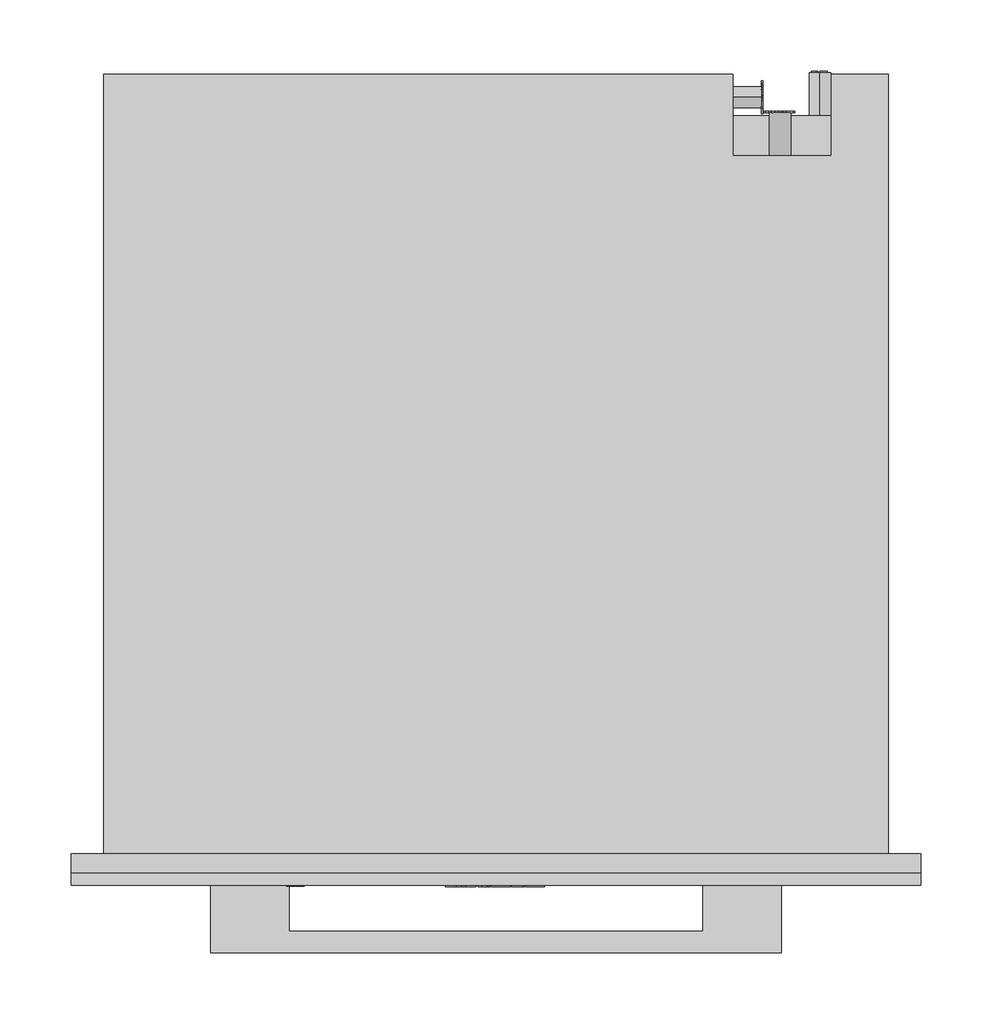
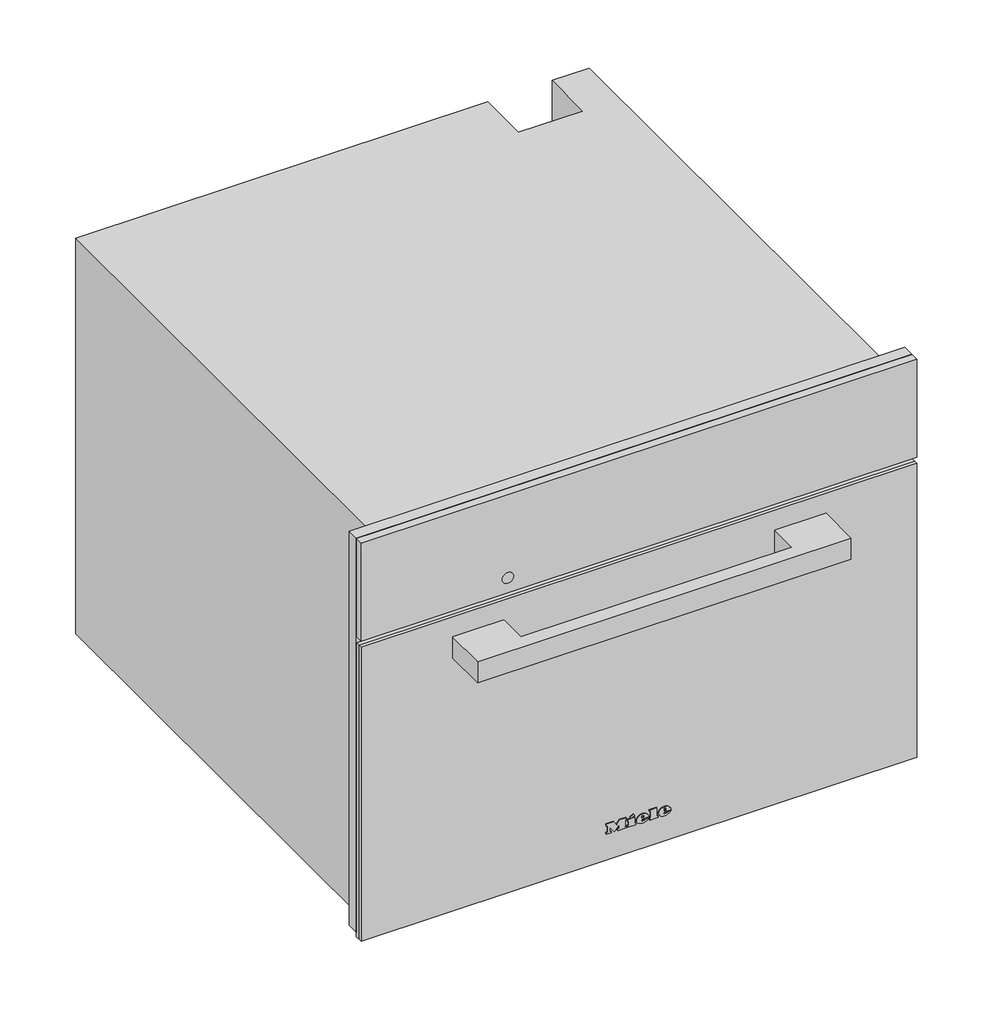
# Not in any storey: 1 proxy.
"""IFC4 building model written with IfcOpenShell, lengths in millimetres."""

import ifcopenshell
import ifcopenshell.guid

model = None  # the IFC model being written
_history = None  # IfcOwnerHistory: only IFC2X3 demands one
_inside = {}  # id of a spatial element -> (the spatial element, [elements in it])
_under = {}  # id of a project, library or spatial element -> (it, [spatial elements below it])
_declared = {}  # id of a project -> (the project, [libraries it declares])
_typed = {}  # id of a type object -> (the type object, [elements of that type])
_made_of = {}  # id of a material, layer set ... -> (it, [elements and type objects made of it])


def new_model(schema):
    """Start an empty IFC model of exactly this schema.

    Asked for "IFC4X3", IfcOpenShell would pick the latest addendum, in which some entities
    have other attributes; the version numbers below select the first issue.
    IFC2X3 requires an IfcOwnerHistory on every rooted entity: one is made here for all.
    """
    global model, _history
    if schema == "IFC4X3":
        model = ifcopenshell.file(schema_version=(4, 3, 0, 0))
    else:
        model = ifcopenshell.file(schema=schema)
    _inside.clear()
    _under.clear()
    _declared.clear()
    _typed.clear()
    _made_of.clear()
    _history = None
    if model.schema == "IFC2X3":
        org = make("IfcOrganization", Name="unknown")
        user = make(
            "IfcPersonAndOrganization",
            ThePerson=make("IfcPerson", FamilyName="unknown"),
            TheOrganization=org,
        )
        app = make(
            "IfcApplication",
            ApplicationDeveloper=org,
            Version="unknown",
            ApplicationFullName="unknown",
            ApplicationIdentifier="unknown",
        )
        _history = make(
            "IfcOwnerHistory",
            OwningUser=user,
            OwningApplication=app,
            ChangeAction="ADDED",
            CreationDate=0,
        )
    return model


def make(cls, **values):
    """One entity of the class cls with the attributes given. An attribute that is None is left unset."""
    return model.create_entity(
        cls, **{name: value for name, value in values.items() if value is not None}
    )


def rooted(cls, **values):
    """An entity with a GlobalId (a new one), such as an element, a storey or a relation."""
    return make(cls, GlobalId=ifcopenshell.guid.new(), OwnerHistory=_history, **values)


def si_unit(unit_type, name, prefix=None):
    """IfcSIUnit, for example si_unit("LENGTHUNIT", "METRE", prefix="MILLI")."""
    return make("IfcSIUnit", UnitType=unit_type, Prefix=prefix, Name=name)


def assignment(units):
    """IfcUnitAssignment: the units of a project."""
    return None if units is None else make("IfcUnitAssignment", Units=units)


def point(xyz):
    """IfcCartesianPoint."""
    return None if xyz is None else make("IfcCartesianPoint", Coordinates=xyz)


def direction(xyz):
    """IfcDirection."""
    return None if xyz is None else make("IfcDirection", DirectionRatios=xyz)


def frame(location, z_axis=None, x_axis=None):
    """IfcAxis2Placement3D, a coordinate frame: its origin and axes. An axis left out is left unset."""
    return make(
        "IfcAxis2Placement3D",
        Location=point(location),
        Axis=direction(z_axis),
        RefDirection=direction(x_axis),
    )


def frame_2d(location, x_axis=None):
    """IfcAxis2Placement2D, a coordinate frame in the plane: its origin and x axis."""
    return make(
        "IfcAxis2Placement2D", Location=point(location), RefDirection=direction(x_axis)
    )


def origin():
    """The frame at (0, 0, 0) with its axes left unset."""
    return frame((0.0, 0.0, 0.0))


def place(relative_to, where):
    """IfcLocalPlacement: puts the frame where relative to a parent placement (None: the world)."""
    return make(
        "IfcLocalPlacement", PlacementRelTo=relative_to, RelativePlacement=where
    )


def context(
    kind, dimensions, precision=None, world=None, true_north=None, identifier=None
):
    """IfcGeometricRepresentationContext, for example the 3D "Model" context."""
    return make(
        "IfcGeometricRepresentationContext",
        ContextIdentifier=identifier,
        ContextType=kind,
        CoordinateSpaceDimension=dimensions,
        Precision=precision,
        WorldCoordinateSystem=world,
        TrueNorth=true_north,
    )


def project(units=None, contexts=None):
    """IfcProject with its units and contexts."""
    return rooted(
        "IfcProject",
        Name="project",
        RepresentationContexts=contexts,
        UnitsInContext=assignment(units),
    )


def spatial(cls, under=None, at=None, **own):
    """A site, building, storey or space (cls), placed at a placement, below another one or the project."""
    s = rooted(cls, ObjectPlacement=at, **own)
    if under is not None:
        _under.setdefault(under.id(), (under, []))[1].append(s)
    return s


def polyline(points):
    """IfcPolyline through the points."""
    return make("IfcPolyline", Points=[point(p) for p in points])


def circle_curve(where, radius):
    """IfcCircle in the frame where."""
    return make("IfcCircle", Position=where, Radius=radius)


def ellipse_curve(where, semi_axis1, semi_axis2):
    """IfcEllipse in the frame where."""
    return make(
        "IfcEllipse", Position=where, SemiAxis1=semi_axis1, SemiAxis2=semi_axis2
    )


def trimmed(basis, trim1, trim2, sense, master):
    """IfcTrimmedCurve: the piece of a basis curve between two trims."""
    return make(
        "IfcTrimmedCurve",
        BasisCurve=basis,
        Trim1=trim1,
        Trim2=trim2,
        SenseAgreement=sense,
        MasterRepresentation=master,
    )


def segment(curve, same_sense, transition):
    """IfcCompositeCurveSegment."""
    return make(
        "IfcCompositeCurveSegment",
        Transition=transition,
        SameSense=same_sense,
        ParentCurve=curve,
    )


def composite_curve(segments, self_intersect=None):
    """IfcCompositeCurve: segments joined end to end."""
    return make("IfcCompositeCurve", Segments=segments, SelfIntersect=self_intersect)


def outline(outer, holes=None, kind="AREA"):
    """IfcArbitraryClosedProfileDef: a profile drawn as a closed curve; with holes, ...WithVoids."""
    if holes is None:
        return make("IfcArbitraryClosedProfileDef", ProfileType=kind, OuterCurve=outer)
    return make(
        "IfcArbitraryProfileDefWithVoids",
        ProfileType=kind,
        OuterCurve=outer,
        InnerCurves=holes,
    )


def extrude(swept, where, along, depth):
    """IfcExtrudedAreaSolid: the profile swept, set in the frame where, extruded along a direction by depth."""
    return make(
        "IfcExtrudedAreaSolid",
        SweptArea=swept,
        Position=where,
        ExtrudedDirection=direction(along),
        Depth=depth,
    )


def faces_of(points, faces, orient=None, outer=None):
    """IfcFace entities. A face is a list of loops; a loop is a list of indices into points, from 0.

    orient and outer hold one flag for each loop. By default every Orientation is true, the
    first loop of a face is its IfcFaceOuterBound and the others are IfcFaceBound.
    """
    made = []
    for i, loops in enumerate(faces):
        bounds = []
        for j, loop in enumerate(loops):
            is_outer = j == 0 if outer is None else outer[i][j]
            bounds.append(
                make(
                    "IfcFaceOuterBound" if is_outer else "IfcFaceBound",
                    Bound=make("IfcPolyLoop", Polygon=[points[k] for k in loop]),
                    Orientation=True if orient is None else orient[i][j],
                )
            )
        made.append(make("IfcFace", Bounds=bounds))
    return made


def faceted_brep(points, faces, orient=None, outer=None, voids=None):
    """IfcFacetedBrep: a solid bounded by flat faces; with voids (closed shells), ...WithVoids."""
    shared = [point(p) for p in points]
    hull = make("IfcClosedShell", CfsFaces=faces_of(shared, faces, orient, outer))
    if voids is None:
        return make("IfcFacetedBrep", Outer=hull)
    return make(
        "IfcFacetedBrepWithVoids",
        Outer=hull,
        Voids=[
            make(cls, CfsFaces=faces_of(shared, fs, o, b)) for cls, fs, o, b in voids
        ],
    )


def shape(context_of_items, identifier, shape_type, items):
    """IfcShapeRepresentation: the items that make up one representation, for example the "Body"."""
    return make(
        "IfcShapeRepresentation",
        ContextOfItems=context_of_items,
        RepresentationIdentifier=identifier,
        RepresentationType=shape_type,
        Items=items,
    )


def source(mapping_origin, context_of_items, identifier, shape_type, items):
    """IfcRepresentationMap: a shape defined once, which mapped items show again and again."""
    return make(
        "IfcRepresentationMap",
        MappingOrigin=mapping_origin,
        MappedRepresentation=shape(context_of_items, identifier, shape_type, items),
    )


def transform(
    local_origin,
    x_axis=None,
    y_axis=None,
    z_axis=None,
    scale=None,
    scale2=None,
    scale3=None,
    uniform=True,
):
    """IfcCartesianTransformationOperator3D, or its non-uniform kind. x_axis, y_axis, z_axis: its Axis1, 2, 3."""
    if uniform:
        return make(
            "IfcCartesianTransformationOperator3D",
            Axis1=direction(x_axis),
            Axis2=direction(y_axis),
            LocalOrigin=point(local_origin),
            Scale=scale,
            Axis3=direction(z_axis),
        )
    return make(
        "IfcCartesianTransformationOperator3DnonUniform",
        Axis1=direction(x_axis),
        Axis2=direction(y_axis),
        LocalOrigin=point(local_origin),
        Scale=scale,
        Axis3=direction(z_axis),
        Scale2=scale2,
        Scale3=scale3,
    )


def mapped(mapping_source, mapping_target):
    """IfcMappedItem: shows the shape of a source again, moved by a transform."""
    return make(
        "IfcMappedItem", MappingSource=mapping_source, MappingTarget=mapping_target
    )


def made_of(thing, what):
    """Note that an element or type object is made of a material, layer set ...; save() writes the relation."""
    if what is not None:
        _made_of.setdefault(what.id(), (what, []))[1].append(thing)
    return thing


def element(
    cls,
    number,
    at=None,
    inside=None,
    cuts=None,
    type_object=None,
    material=None,
    context=None,
    identifier="Body",
    shape_type=None,
    held_by="IfcProductDefinitionShape",
    body=None,
    shapes=None,
    **own,
):
    """One element of the class cls, such as IfcWall. Its Tag is "e" and its number.

    at: its placement. inside: the storey or other place that contains it. cuts: it is an
    opening in that element (IfcRelVoidsElement). A single representation is given by context,
    identifier, shape_type and body (its items); several are given by shapes. held_by: the class
    of the entity that holds the representations. save() writes the other relations.
    """
    e = rooted(cls, Tag="e%d" % number, ObjectPlacement=at, **own)
    if body is not None:
        shapes = [shape(context, identifier, shape_type, body)]
    if shapes is not None:
        e.Representation = make(held_by, Representations=shapes)
    if inside is not None:
        _inside.setdefault(inside.id(), (inside, []))[1].append(e)
    if cuts is not None:
        rooted(
            "IfcRelVoidsElement", RelatingBuildingElement=cuts, RelatedOpeningElement=e
        )
    if type_object is not None:
        _typed.setdefault(type_object.id(), (type_object, []))[1].append(e)
    return made_of(e, material)


def aggregate(whole, parts):
    """IfcRelAggregates: a whole, such as a stair, and the parts it consists of."""
    return rooted("IfcRelAggregates", RelatingObject=whole, RelatedObjects=parts)


def save(model, path):
    """Write the relations noted so far, then the file.

    IfcRelAggregates (storeys below a building ...), IfcRelContainedInSpatialStructure (elements
    in a storey), IfcRelDefinesByType, IfcRelAssociatesMaterial and IfcRelDeclares: one each for
    every whole, place, type object, material and project.
    """
    for whole, parts in _under.values():
        aggregate(whole, parts)
    for where, things in _inside.values():
        rooted(
            "IfcRelContainedInSpatialStructure",
            RelatedElements=things,
            RelatingStructure=where,
        )
    for kind, things in _typed.values():
        rooted("IfcRelDefinesByType", RelatedObjects=things, RelatingType=kind)
    for what, things in _made_of.values():
        rooted("IfcRelAssociatesMaterial", RelatedObjects=things, RelatingMaterial=what)
    for by, libraries in _declared.values():
        rooted("IfcRelDeclares", RelatingContext=by, RelatedDefinitions=libraries)
    model.write(path)


def plane_surface(at):
    """IfcPlane: the flat surface through the origin of the frame at, square to its z axis."""
    return make("IfcPlane", Position=at)


def cylinder_surface(at, radius):
    """IfcCylindricalSurface: all points at the distance radius from the z axis of the frame at."""
    return make("IfcCylindricalSurface", Position=at, Radius=radius)


def revolved_surface(curve, axis_point, axis_direction):
    """IfcSurfaceOfRevolution: the curve turned about the line through axis_point along axis_direction."""
    return make(
        "IfcSurfaceOfRevolution",
        SweptCurve=make("IfcArbitraryOpenProfileDef", ProfileType="CURVE", Curve=curve),
        AxisPosition=make("IfcAxis1Placement", Location=point(axis_point), Axis=direction(axis_direction)),
    )


def extruded_surface(curve, direction_of_extrusion, depth):
    """IfcSurfaceOfLinearExtrusion: the curve pushed along a direction by depth."""
    return make(
        "IfcSurfaceOfLinearExtrusion",
        SweptCurve=make("IfcArbitraryOpenProfileDef", ProfileType="CURVE", Curve=curve),
        ExtrudedDirection=direction(direction_of_extrusion),
        Depth=depth,
    )


def advanced_brep(points, edges, surfaces, faces):
    """IfcAdvancedBrep: a solid bounded by faces that lie on surfaces and meet in shared edges.

    An edge is (start, end): straight between two places in points (the first is 0);
    or (start, end, curve); or (start, end, curve, False) where it runs against its curve.
    A face is (place in surfaces, loops), or (place, loops, False) where it looks against
    its surface's normal. A loop lists edges by number (the first is 1), with a minus sign
    where the edge is run from its end to its start. The first loop is the outer one.
    """
    corners = [point(p) for p in points]
    vertices = [make("IfcVertexPoint", VertexGeometry=c) for c in corners]
    made = []
    for start, end, *more in edges:
        made.append(
            make(
                "IfcEdgeCurve",
                EdgeStart=vertices[start],
                EdgeEnd=vertices[end],
                EdgeGeometry=more[0] if more else make("IfcPolyline", Points=[corners[start], corners[end]]),
                SameSense=more[1] if len(more) > 1 else True,
            )
        )
    hull = []
    for where, loops, *sense in faces:
        bounds = []
        for j, loop in enumerate(loops):
            ring = [make("IfcOrientedEdge", EdgeElement=made[abs(k) - 1], Orientation=k > 0) for k in loop]
            bounds.append(
                make(
                    "IfcFaceOuterBound" if j == 0 else "IfcFaceBound",
                    Bound=make("IfcEdgeLoop", EdgeList=ring),
                    Orientation=True,
                )
            )
        hull.append(make("IfcAdvancedFace", Bounds=bounds, FaceSurface=surfaces[where], SameSense=sense[0] if sense else True))
    return make("IfcAdvancedBrep", Outer=make("IfcClosedShell", CfsFaces=hull))


def specialty_equipment_17d98265(model_context):
    return source(origin(), model_context, "Body", "SolidModel", [
        extrude(outline(polyline([(455.0, 297.5), (455.0, -297.5), (9.0, -297.5), (9.0, 297.5), (455.0, 297.5)]), holes=[polyline([(344.0, -272.5), (344.0, 272.5), (27.0, 272.5), (27.0, -272.5), (344.0, -272.5)])]), frame((0.0, -13.0, 0.0), z_axis=(0.0, 1.0, 0.0), x_axis=(0.0, 0.0, 1.0)), (0.0, 0.0, 1.0), 13.0),
        extrude(outline(polyline([(383.0, 196.9217896), (383.0, 198.4267862), (393.0435673, 201.1942402), (393.0435673, 199.9014806), (384.4295103, 197.7797951), (393.0470645, 195.3087512), (393.0470645, 193.4373937), (384.4121052, 190.9191482), (393.0472266, 188.8443938), (393.0472266, 187.5376524), (383.0, 190.2769667), (383.0, 191.6257455), (391.8347238, 194.3884733), (383.0, 196.9217896)])), frame((0.0, 519.0, 0.0), z_axis=(0.0, 1.0, 0.0), x_axis=(0.0, 0.0, 1.0)), (0.0, 0.0, 1.0), 1.0),
        extrude(outline(polyline([(393.0468463, 209.521488), (393.0468463, 208.2566067), (388.129594, 208.2566067), (393.0474898, 203.1074328), (393.0474898, 201.3597489), (388.9313111, 205.6695027), (383.0, 201.1858157), (383.0, 202.7358731), (388.0700777, 206.5685235), (386.4282746, 208.2823622), (383.0, 208.2823622), (383.0, 209.521488), (393.0468463, 209.521488)])), frame((0.0, 519.0, 0.0), z_axis=(0.0, 1.0, 0.0), x_axis=(0.0, 0.0, 1.0)), (0.0, 0.0, 1.0), 1.0),
        extrude(outline(polyline([(518.3136153, 20.0), (522.323529, 30.045631), (523.3928394, 30.045631), (527.4027531, 20.0), (526.0759254, 20.0), (524.925681, 23.1392597), (520.7882348, 23.1392597), (519.640443, 20.0), (518.3136153, 20.0)]), holes=[polyline([(521.2493136, 24.3949636), (524.4670548, 24.3949636), (523.5620651, 26.864678), (522.8581842, 28.7899271), (522.2327848, 27.0805021), (521.2493136, 24.3949636)])]), frame((186.0, 0.0, 0.0), z_axis=(1.0, 0.0, 0.0), x_axis=(0.0, 1.0, 0.0)), (0.0, 0.0, 1.0), 1.0),
        extrude(outline(polyline([(530.5420128, 20.0), (527.8025182, 30.045631), (529.0974628, 30.045631), (530.6867131, 23.4433755), (531.1772224, 21.4053092), (531.7020674, 23.207931), (533.6935352, 30.045631), (535.5599232, 30.045631), (537.0069257, 25.0890343), (538.0835937, 21.4053092), (538.5593878, 23.3845144), (540.1633533, 30.045631), (541.4582979, 30.045631), (538.7163507, 20.0), (537.3748077, 20.0), (534.9664069, 27.7500474), (534.630408, 28.8316204), (534.2527159, 27.5293182), (532.0576866, 20.0), (530.5420128, 20.0)])), frame((186.0, 0.0, 0.0), z_axis=(1.0, 0.0, 0.0), x_axis=(0.0, 1.0, 0.0)), (0.0, 0.0, 1.0), 1.0),
        advanced_brep(
        [(227.0, 547.0, 255.5), (227.0, 547.0, 240.5), (221.4098301, 547.0, 243.0), (225.5, 547.0, 243.0), (225.5, 547.0, 253.0), (224.4955303, 547.0, 253.0), (224.4955303, 547.0, 244.0), (221.0315043, 547.0, 244.0), (221.0315043, 547.0, 243.4582978), (232.0, 547.0, 243.0), (232.0, 547.0, 253.0), (227.0, 547.0, 253.0), (227.0, 547.0, 252.0), (231.0, 547.0, 252.0), (231.0, 547.0, 248.5), (228.0, 547.0, 248.5), (228.0, 547.0, 247.5), (231.0, 547.0, 247.5), (231.0, 547.0, 244.0), (227.0, 547.0, 244.0), (227.0, 547.0, 243.0), (227.0, 517.0, 240.5), (227.0, 517.0, 255.5), (232.0, 548.0, 253.0), (232.0, 548.0, 243.0), (227.0, 548.0, 243.0), (227.0, 548.0, 244.0), (231.0, 548.0, 244.0), (231.0, 548.0, 247.5), (228.0, 548.0, 247.5), (228.0, 548.0, 248.5), (231.0, 548.0, 248.5), (231.0, 548.0, 252.0), (227.0, 548.0, 252.0), (227.0, 548.0, 253.0), (225.5, 548.0, 243.0), (221.0315043, 548.0, 243.0), (221.0315043, 548.0, 244.0), (224.4955303, 548.0, 244.0), (224.4955303, 548.0, 253.0), (225.5, 548.0, 253.0), (221.0315043, 547.0, 243.0)],
        [
            (0, 1, circle_curve(frame((227.0, 547.0, 248.0), z_axis=(0.0, 1.0, 0.0), x_axis=(0.0, 0.0, 1.0)), 7.5)),
            (1, 2, circle_curve(frame((227.0, 547.0, 248.0), z_axis=(0.0, 1.0, 0.0), x_axis=(0.0, 0.0, 1.0)), 7.5)),
            (2, 3),
            (3, 4),
            (4, 5),
            (5, 6),
            (6, 7),
            (7, 8),
            (8, 0, circle_curve(frame((227.0, 547.0, 248.0), z_axis=(0.0, 1.0, 0.0), x_axis=(0.0, 0.0, 1.0)), 7.5)),
            (9, 10),
            (10, 11),
            (11, 12),
            (12, 13),
            (13, 14),
            (14, 15),
            (15, 16),
            (16, 17),
            (17, 18),
            (18, 19),
            (19, 20),
            (20, 9),
            (21, 22, circle_curve(frame((227.0, 517.0, 248.0), z_axis=(0.0, -1.0, 0.0), x_axis=(0.0, 0.0, 1.0)), 7.5)),
            (22, 21, circle_curve(frame((227.0, 517.0, 248.0), z_axis=(0.0, -1.0, 0.0), x_axis=(0.0, 0.0, 1.0)), 7.5)),
            (0, 22),
            (21, 1),
            (8, 2, circle_curve(frame((227.0, 547.0, 248.0), z_axis=(0.0, -1.0, 0.0), x_axis=(0.0, 0.0, 1.0)), 7.5)),
            (23, 24),
            (24, 25),
            (25, 26),
            (26, 27),
            (27, 28),
            (28, 29),
            (29, 30),
            (30, 31),
            (31, 32),
            (32, 33),
            (33, 34),
            (34, 23),
            (35, 36),
            (36, 37),
            (37, 38),
            (38, 39),
            (39, 40),
            (40, 35),
            (8, 41),
            (41, 2),
            (23, 10),
            (9, 24),
            (20, 25),
            (19, 26),
            (18, 27),
            (17, 28),
            (16, 29),
            (15, 30),
            (14, 31),
            (13, 32),
            (12, 33),
            (11, 34),
            (35, 3),
            (41, 36),
            (7, 37),
            (6, 38),
            (5, 39),
            (4, 40),
        ],
        [
            plane_surface(frame((227.0, 547.0, 255.5), z_axis=(0.0, 1.0, 0.0), x_axis=(1.0, 0.0, 0.0))),
            plane_surface(frame((227.0, 517.0, 255.5), z_axis=(0.0, -1.0, 0.0), x_axis=(-1.0, 0.0, 0.0))),
            cylinder_surface(frame((227.0, 547.0, 248.0), z_axis=(0.0, -1.0, 0.0), x_axis=(0.0, 0.0, 1.0)), 7.5),
            plane_surface(frame((232.0, 548.0, 253.0), z_axis=(0.0, 1.0, 0.0), x_axis=(0.0, 0.0, -1.0))),
            plane_surface(frame((232.0, 547.0, 253.0), z_axis=(0.0, -1.0, 0.0), x_axis=(0.0, 0.0, 1.0))),
            plane_surface(frame((232.0, 548.0, 253.0), z_axis=(1.0, 0.0, 0.0), x_axis=(0.0, -1.0, 0.0))),
            plane_surface(frame((232.0, 548.0, 243.0), z_axis=(0.0, 0.0, -1.0), x_axis=(0.0, -1.0, 0.0))),
            plane_surface(frame((227.0, 548.0, 243.0), z_axis=(-1.0, 0.0, 0.0), x_axis=(0.0, -1.0, 0.0))),
            plane_surface(frame((227.0, 548.0, 244.0), z_axis=(0.0, 0.0, 1.0), x_axis=(0.0, -1.0, 0.0))),
            plane_surface(frame((231.0, 548.0, 244.0), z_axis=(-1.0, 0.0, 0.0), x_axis=(0.0, -1.0, 0.0))),
            plane_surface(frame((231.0, 548.0, 247.5), z_axis=(0.0, 0.0, -1.0), x_axis=(0.0, -1.0, 0.0))),
            plane_surface(frame((228.0, 548.0, 247.5), z_axis=(-1.0, 0.0, 0.0), x_axis=(0.0, -1.0, 0.0))),
            plane_surface(frame((228.0, 548.0, 248.5), z_axis=(0.0, 0.0, 1.0), x_axis=(0.0, -1.0, 0.0))),
            plane_surface(frame((231.0, 548.0, 248.5), z_axis=(-1.0, 0.0, 0.0), x_axis=(0.0, -1.0, 0.0))),
            plane_surface(frame((231.0, 548.0, 252.0), z_axis=(0.0, 0.0, -1.0), x_axis=(0.0, -1.0, 0.0))),
            plane_surface(frame((227.0, 548.0, 252.0), z_axis=(-1.0, 0.0, 0.0), x_axis=(0.0, -1.0, 0.0))),
            plane_surface(frame((227.0, 548.0, 253.0), z_axis=(0.0, 0.0, 1.0), x_axis=(0.0, -1.0, 0.0))),
            plane_surface(frame((225.5, 548.0, 243.0), z_axis=(0.0, 0.0, -1.0), x_axis=(0.0, -1.0, 0.0))),
            plane_surface(frame((221.0315043, 548.0, 243.0), z_axis=(-1.0, 0.0, 0.0), x_axis=(0.0, -1.0, 0.0))),
            plane_surface(frame((221.0315043, 548.0, 244.0), z_axis=(0.0, 0.0, 1.0), x_axis=(0.0, -1.0, 0.0))),
            plane_surface(frame((224.4955303, 548.0, 244.0), z_axis=(-1.0, 0.0, 0.0), x_axis=(0.0, -1.0, 0.0))),
            plane_surface(frame((224.4955303, 548.0, 253.0), z_axis=(0.0, 0.0, 1.0), x_axis=(0.0, -1.0, 0.0))),
            plane_surface(frame((225.5, 548.0, 253.0), z_axis=(1.0, 0.0, 0.0), x_axis=(0.0, -1.0, 0.0))),
        ],
        [
            (0, [[1, 2, 3, 4, 5, 6, 7, 8, 9], [10, 11, 12, 13, 14, 15, 16, 17, 18, 19, 20, 21]]),
            (1, [[22, 23]]),
            (2, [[-1, 24, -22, 25]]),
            (2, [[-23, -24, -9, 26, -2, -25]]),
            (3, [[27, 28, 29, 30, 31, 32, 33, 34, 35, 36, 37, 38]]),
            (3, [[39, 40, 41, 42, 43, 44]]),
            (4, [[45, 46, -26]]),
            (5, [[-27, 47, -10, 48]]),
            (6, [[-28, -48, -21, 49]]),
            (7, [[-29, -49, -20, 50]]),
            (8, [[-30, -50, -19, 51]]),
            (9, [[-31, -51, -18, 52]]),
            (10, [[-32, -52, -17, 53]]),
            (11, [[-33, -53, -16, 54]]),
            (12, [[-34, -54, -15, 55]]),
            (13, [[-35, -55, -14, 56]]),
            (14, [[-36, -56, -13, 57]]),
            (15, [[-37, -57, -12, 58]]),
            (16, [[-38, -58, -11, -47]]),
            (17, [[-39, 59, -3, -46, 60]]),
            (18, [[-40, -60, -45, -8, 61]]),
            (19, [[-41, -61, -7, 62]]),
            (20, [[-42, -62, -6, 63]]),
            (21, [[-43, -63, -5, 64]]),
            (22, [[-44, -64, -4, -59]]),
        ],
    ),
        extrude(outline(composite_curve([segment(trimmed(circle_curve(frame_2d((388.0, 199.0)), 7.5), [point((388.0, 206.5))], [point((388.0, 191.5))], False, "CARTESIAN"), True, "CONTINUOUS"), segment(trimmed(circle_curve(frame_2d((388.0, 199.0)), 7.5), [point((388.0, 191.5))], [point((388.0, 206.5))], False, "CARTESIAN"), True, "CONTINUOUS")], self_intersect=False)), frame((0.0, 489.0, 0.0), z_axis=(0.0, 1.0, 0.0), x_axis=(0.0, 0.0, 1.0)), (0.0, 0.0, 1.0), 30.0),
        extrude(outline(composite_curve([segment(trimmed(circle_curve(frame_2d((530.0, 25.0)), 7.5), [point((530.0, 17.5))], [point((530.0, 32.5))], False, "CARTESIAN"), True, "CONTINUOUS"), segment(trimmed(circle_curve(frame_2d((530.0, 25.0)), 7.5), [point((530.0, 32.5))], [point((530.0, 17.5))], False, "CARTESIAN"), True, "CONTINUOUS")], self_intersect=False)), frame((166.0, 0.0, 0.0), z_axis=(1.0, 0.0, 0.0), x_axis=(0.0, 1.0, 0.0)), (0.0, 0.0, 1.0), 20.0),
        faceted_brep([(-275.0, 546.0, 0.0), (-275.0, 546.0, 448.0), (166.0, 546.0, 448.0), (166.0, 546.0, 0.0), (235.0, 546.0, 448.0), (275.0, 546.0, 448.0), (275.0, 546.0, 338.0), (235.0, 546.0, 338.0), (275.0, 0.0, 448.0), (-275.0, 0.0, 448.0), (-275.0, 0.0, 0.0), (275.0, 0.0, 0.0), (-272.5, 0.0, 344.0), (272.5, 0.0, 344.0), (272.5, 0.0, 27.0), (-272.5, 0.0, 27.0), (235.0, 489.0, 448.0), (166.0, 489.0, 448.0), (166.0, 517.0, 0.0), (275.0, 517.0, 0.0), (275.0, 517.0, 338.0), (272.5, 17.0, 344.0), (-272.5, 17.0, 344.0), (-272.5, 17.0, 27.0), (272.5, 17.0, 27.0), (231.0, 17.0, 307.0), (231.0, 17.0, 65.0), (-231.0, 17.0, 65.0), (-231.0, 17.0, 307.0), (231.0, 411.0, 307.0), (-231.0, 411.0, 307.0), (-231.0, 411.0, 65.0), (231.0, 411.0, 65.0), (235.0, 489.0, 337.0), (166.0, 489.0, 337.0), (166.0, 517.0, 337.0), (235.0, 517.0, 337.0), (235.0, 517.0, 338.0)], [[[0, 1, 2, 3]], [[4, 5, 6, 7]], [[8, 9, 10, 11], [12, 13, 14, 15]], [[9, 8, 5, 4, 16, 17, 2, 1]], [[1, 0, 10, 9]], [[11, 10, 0, 3, 18, 19]], [[8, 11, 19, 20, 6, 5]], [[21, 22, 23, 24], [25, 26, 27, 28]], [[22, 21, 13, 12]], [[23, 22, 12, 15]], [[24, 23, 15, 14]], [[21, 24, 14, 13]], [[29, 30, 31, 32]], [[29, 32, 26, 25]], [[32, 31, 27, 26]], [[31, 30, 28, 27]], [[30, 29, 25, 28]], [[16, 33, 34, 17]], [[17, 34, 35, 18, 3, 2]], [[34, 33, 36, 35]], [[33, 16, 4, 7, 37, 36]], [[37, 20, 19, 18, 35, 36]], [[20, 37, 7, 6]]]),
        advanced_brep(
        [(26.2998, -23.0, 36.7018), (26.2998, -23.0, 37.8532), (33.9264, -23.0, 37.8532), (20.6568, -23.0, 37.8532), (23.7918, -23.0, 34.0), (33.7326, -23.0, 36.7018), (30.2898, -23.0, 36.7018), (27.5766, -23.0, 35.425), (26.2998, -23.0, 39.3124), (26.2998, -23.0, 40.555), (28.2492, -23.0, 40.555), (28.2492, -23.0, 39.3124), (26.2998, -22.0, 36.7018), (27.5766, -22.0, 35.425), (30.2898, -22.0, 36.7018), (33.7326, -22.0, 36.7018), (23.7918, -22.0, 34.0), (20.6568, -22.0, 37.8532), (33.9264, -22.0, 37.8532), (26.2998, -22.0, 37.8532), (26.2998, -22.0, 39.3124), (28.2492, -22.0, 39.3124), (28.2492, -22.0, 40.555), (26.2998, -22.0, 40.555)],
        [
            (0, 1),
            (1, 2),
            (2, 3, ellipse_curve(frame((27.2916, -23.0, 37.8532), z_axis=(0.0, -1.0, 0.0), x_axis=(-1.0, 0.0, 0.0)), 6.6348, 5.4834)),
            (3, 4, circle_curve(frame((25.0686622, -23.0, 38.2408), z_axis=(0.0, -1.0, 0.0), x_axis=(0.0, 0.0, -1.0)), 4.4288556)),
            (4, 5, circle_curve(frame((27.1587808, -23.0, 41.2504), z_axis=(0.0, -1.0, 0.0), x_axis=(0.0, 0.0, -1.0)), 7.9940516)),
            (5, 6),
            (6, 7, circle_curve(frame((28.1338588, -23.0, 37.762), z_axis=(0.0, 1.0, 0.0), x_axis=(0.0, 0.0, -1.0)), 2.4025208)),
            (7, 0, circle_curve(frame((27.5766, -23.0, 36.7018), z_axis=(0.0, 1.0, 0.0), x_axis=(0.0, 0.0, -1.0)), 1.2768)),
            (8, 9),
            (9, 10, circle_curve(frame((27.2745, -23.0, 40.555), z_axis=(0.0, 1.0, 0.0), x_axis=(0.0, 0.0, -1.0)), 0.9747)),
            (10, 11),
            (11, 8),
            (12, 13, circle_curve(frame((27.5766, -22.0, 36.7018), z_axis=(0.0, -1.0, 0.0), x_axis=(0.0, 0.0, -1.0)), 1.2768)),
            (13, 14, circle_curve(frame((28.1338588, -22.0, 37.762), z_axis=(0.0, -1.0, 0.0), x_axis=(0.0, 0.0, -1.0)), 2.4025208)),
            (14, 15),
            (15, 16, circle_curve(frame((27.1587808, -22.0, 41.2504), z_axis=(0.0, 1.0, 0.0), x_axis=(0.0, 0.0, -1.0)), 7.9940516)),
            (16, 17, circle_curve(frame((25.0686622, -22.0, 38.2408), z_axis=(0.0, 1.0, 0.0), x_axis=(0.0, 0.0, -1.0)), 4.4288556)),
            (17, 18, ellipse_curve(frame((27.2916, -22.0, 37.8532), z_axis=(0.0, 1.0, 0.0), x_axis=(-1.0, 0.0, 0.0)), 6.6348, 5.4834)),
            (18, 19),
            (19, 12),
            (20, 21),
            (21, 22),
            (22, 23, circle_curve(frame((27.2745, -22.0, 40.555), z_axis=(0.0, -1.0, 0.0), x_axis=(0.0, 0.0, -1.0)), 0.9747)),
            (23, 20),
            (0, 12),
            (19, 1),
            (18, 2),
            (5, 15),
            (14, 6),
            (17, 3),
            (13, 7),
            (16, 4),
            (8, 20),
            (23, 9),
            (22, 10),
            (21, 11),
        ],
        [
            plane_surface(frame((26.2998, -23.0, 37.8532), z_axis=(0.0, -1.0, 0.0), x_axis=(0.0, 0.0, 1.0))),
            plane_surface(frame((26.2998, -22.0, 37.8532), z_axis=(0.0, 1.0, 0.0), x_axis=(0.0, 0.0, -1.0))),
            plane_surface(frame((26.2998, -23.0, 36.7018), z_axis=(1.0, 0.0, 0.0), x_axis=(0.0, 1.0, 0.0))),
            plane_surface(frame((26.2998, -23.0, 37.8532), z_axis=(0.0, 0.0, -1.0), x_axis=(0.0, 1.0, 0.0))),
            plane_surface(frame((33.7326, -23.0, 36.7018), z_axis=(0.0, 0.0, 1.0), x_axis=(0.0, 1.0, 0.0))),
            extruded_surface(trimmed(ellipse_curve(frame((27.2916, -21.0, 37.8532), z_axis=(0.0, -1.0, 0.0), x_axis=(-1.0, 0.0, 0.0)), 6.6348, 5.4834), [point((33.9264, -21.0, 37.8532))], [point((20.6568, -21.0, 37.8532))], True, "CARTESIAN"), (0.0, -1.0, 0.0), 1.0),
            revolved_surface(polyline([(28.1338588, -22.0, 35.3594792), (28.1338588, -23.0, 35.3594792)]), (28.1338588, -22.0, 37.762), (0.0, 1.0, 0.0)),
            revolved_surface(polyline([(27.5766, -22.0, 35.425), (27.5766, -23.0, 35.425)]), (27.5766, -22.0, 36.7018), (0.0, 1.0, 0.0)),
            cylinder_surface(frame((25.0686622, -22.0, 38.2408), z_axis=(0.0, -1.0, 0.0), x_axis=(0.0, 0.0, -1.0)), 4.4288556),
            cylinder_surface(frame((27.1587808, -22.0, 41.2504), z_axis=(0.0, -1.0, 0.0), x_axis=(0.0, 0.0, -1.0)), 7.9940516),
            plane_surface(frame((26.2998, -23.0, 39.3124), z_axis=(1.0, 0.0, 0.0), x_axis=(0.0, 1.0, 0.0))),
            revolved_surface(polyline([(27.2745, -22.0, 39.5803), (27.2745, -23.0, 39.5803)]), (27.2745, -22.0, 40.555), (0.0, 1.0, 0.0)),
            plane_surface(frame((28.2492, -23.0, 40.555), z_axis=(-1.0, 0.0, 0.0), x_axis=(0.0, 1.0, 0.0))),
            plane_surface(frame((28.2492, -23.0, 39.3124), z_axis=(0.0, 0.0, 1.0), x_axis=(0.0, 1.0, 0.0))),
        ],
        [
            (0, [[1, 2, 3, 4, 5, 6, 7, 8], [9, 10, 11, 12]]),
            (1, [[13, 14, 15, 16, 17, 18, 19, 20], [21, 22, 23, 24]]),
            (2, [[-1, 25, -20, 26]]),
            (3, [[-2, -26, -19, 27]]),
            (4, [[-6, 28, -15, 29]]),
            (5, [[-3, -27, -18, 30]]),
            (6, [[-7, -29, -14, 31]]),
            (7, [[-8, -31, -13, -25]]),
            (8, [[-4, -30, -17, 32]]),
            (9, [[-5, -32, -16, -28]]),
            (10, [[-9, 33, -24, 34]]),
            (11, [[-10, -34, -23, 35]]),
            (12, [[-11, -35, -22, 36]]),
            (13, [[-12, -36, -21, -33]]),
        ],
    ),
        advanced_brep(
        [(2.508, -23.0, 36.7018), (2.508, -23.0, 37.8532), (10.1346, -23.0, 37.8532), (-3.135, -23.0, 37.8532), (0.0, -23.0, 34.0), (9.9408, -23.0, 36.7018), (6.498, -23.0, 36.7018), (3.7848, -23.0, 35.425), (2.508, -23.0, 39.3124), (2.508, -23.0, 40.555), (4.4574, -23.0, 40.555), (4.4574, -23.0, 39.3124), (2.508, -22.0, 36.7018), (3.7848, -22.0, 35.425), (6.498, -22.0, 36.7018), (9.9408, -22.0, 36.7018), (0.0, -22.0, 34.0), (-3.135, -22.0, 37.8532), (10.1346, -22.0, 37.8532), (2.508, -22.0, 37.8532), (2.508, -22.0, 39.3124), (4.4574, -22.0, 39.3124), (4.4574, -22.0, 40.555), (2.508, -22.0, 40.555)],
        [
            (0, 1),
            (1, 2),
            (2, 3, ellipse_curve(frame((3.4998, -23.0, 37.8532), z_axis=(0.0, -1.0, 0.0), x_axis=(-1.0, 0.0, 0.0)), 6.6348, 5.4834)),
            (3, 4, circle_curve(frame((1.2768622, -23.0, 38.2408), z_axis=(0.0, -1.0, 0.0), x_axis=(0.0, 0.0, -1.0)), 4.4288556)),
            (4, 5, circle_curve(frame((3.3669808, -23.0, 41.2504), z_axis=(0.0, -1.0, 0.0), x_axis=(0.0, 0.0, -1.0)), 7.9940516)),
            (5, 6),
            (6, 7, circle_curve(frame((4.3420588, -23.0, 37.762), z_axis=(0.0, 1.0, 0.0), x_axis=(0.0, 0.0, -1.0)), 2.4025208)),
            (7, 0, circle_curve(frame((3.7848, -23.0, 36.7018), z_axis=(0.0, 1.0, 0.0), x_axis=(0.0, 0.0, -1.0)), 1.2768)),
            (8, 9),
            (9, 10, circle_curve(frame((3.4827, -23.0, 40.555), z_axis=(0.0, 1.0, 0.0), x_axis=(0.0, 0.0, -1.0)), 0.9747)),
            (10, 11),
            (11, 8),
            (12, 13, circle_curve(frame((3.7848, -22.0, 36.7018), z_axis=(0.0, -1.0, 0.0), x_axis=(0.0, 0.0, -1.0)), 1.2768)),
            (13, 14, circle_curve(frame((4.3420588, -22.0, 37.762), z_axis=(0.0, -1.0, 0.0), x_axis=(0.0, 0.0, -1.0)), 2.4025208)),
            (14, 15),
            (15, 16, circle_curve(frame((3.3669808, -22.0, 41.2504), z_axis=(0.0, 1.0, 0.0), x_axis=(0.0, 0.0, -1.0)), 7.9940516)),
            (16, 17, circle_curve(frame((1.2768622, -22.0, 38.2408), z_axis=(0.0, 1.0, 0.0), x_axis=(0.0, 0.0, -1.0)), 4.4288556)),
            (17, 18, ellipse_curve(frame((3.4998, -22.0, 37.8532), z_axis=(0.0, 1.0, 0.0), x_axis=(-1.0, 0.0, 0.0)), 6.6348, 5.4834)),
            (18, 19),
            (19, 12),
            (20, 21),
            (21, 22),
            (22, 23, circle_curve(frame((3.4827, -22.0, 40.555), z_axis=(0.0, -1.0, 0.0), x_axis=(0.0, 0.0, -1.0)), 0.9747)),
            (23, 20),
            (0, 12),
            (19, 1),
            (18, 2),
            (5, 15),
            (14, 6),
            (17, 3),
            (13, 7),
            (16, 4),
            (8, 20),
            (23, 9),
            (22, 10),
            (21, 11),
        ],
        [
            plane_surface(frame((2.508, -23.0, 37.8532), z_axis=(0.0, -1.0, 0.0), x_axis=(0.0, 0.0, 1.0))),
            plane_surface(frame((2.508, -22.0, 37.8532), z_axis=(0.0, 1.0, 0.0), x_axis=(0.0, 0.0, -1.0))),
            plane_surface(frame((2.508, -23.0, 36.7018), z_axis=(1.0, 0.0, 0.0), x_axis=(0.0, 1.0, 0.0))),
            plane_surface(frame((2.508, -23.0, 37.8532), z_axis=(0.0, 0.0, -1.0), x_axis=(0.0, 1.0, 0.0))),
            plane_surface(frame((9.9408, -23.0, 36.7018), z_axis=(0.0, 0.0, 1.0), x_axis=(0.0, 1.0, 0.0))),
            extruded_surface(trimmed(ellipse_curve(frame((3.4998, -21.0, 37.8532), z_axis=(0.0, -1.0, 0.0), x_axis=(-1.0, 0.0, 0.0)), 6.6348, 5.4834), [point((10.1346, -21.0, 37.8532))], [point((-3.135, -21.0, 37.8532))], True, "CARTESIAN"), (0.0, -1.0, 0.0), 1.0),
            revolved_surface(polyline([(4.3420588, -22.0, 35.3594792), (4.3420588, -23.0, 35.3594792)]), (4.3420588, -22.0, 37.762), (0.0, 1.0, 0.0)),
            revolved_surface(polyline([(3.7848, -22.0, 35.425), (3.7848, -23.0, 35.425)]), (3.7848, -22.0, 36.7018), (0.0, 1.0, 0.0)),
            cylinder_surface(frame((1.2768622, -22.0, 38.2408), z_axis=(0.0, -1.0, 0.0), x_axis=(0.0, 0.0, -1.0)), 4.4288556),
            cylinder_surface(frame((3.3669808, -22.0, 41.2504), z_axis=(0.0, -1.0, 0.0), x_axis=(0.0, 0.0, -1.0)), 7.9940516),
            plane_surface(frame((2.508, -23.0, 39.3124), z_axis=(1.0, 0.0, 0.0), x_axis=(0.0, 1.0, 0.0))),
            revolved_surface(polyline([(3.4827, -22.0, 39.5803), (3.4827, -23.0, 39.5803)]), (3.4827, -22.0, 40.555), (0.0, 1.0, 0.0)),
            plane_surface(frame((4.4574, -23.0, 40.555), z_axis=(-1.0, 0.0, 0.0), x_axis=(0.0, 1.0, 0.0))),
            plane_surface(frame((4.4574, -23.0, 39.3124), z_axis=(0.0, 0.0, 1.0), x_axis=(0.0, 1.0, 0.0))),
        ],
        [
            (0, [[1, 2, 3, 4, 5, 6, 7, 8], [9, 10, 11, 12]]),
            (1, [[13, 14, 15, 16, 17, 18, 19, 20], [21, 22, 23, 24]]),
            (2, [[-1, 25, -20, 26]]),
            (3, [[-2, -26, -19, 27]]),
            (4, [[-6, 28, -15, 29]]),
            (5, [[-3, -27, -18, 30]]),
            (6, [[-7, -29, -14, 31]]),
            (7, [[-8, -31, -13, -25]]),
            (8, [[-4, -30, -17, 32]]),
            (9, [[-5, -32, -16, -28]]),
            (10, [[-9, 33, -24, 34]]),
            (11, [[-10, -34, -23, 35]]),
            (12, [[-11, -35, -22, 36]]),
            (13, [[-12, -36, -21, -33]]),
        ],
    ),
        extrude(outline(polyline([(44.7274, -9.9522), (42.8806, -9.0858), (44.6818, -5.2212), (46.5286, -6.0762), (44.7274, -9.9522)])), frame((0.0, -23.0, 0.0), z_axis=(0.0, 1.0, 0.0), x_axis=(0.0, 0.0, 1.0)), (0.0, 0.0, 1.0), 1.0),
        extrude(outline(polyline([(42.6298, -12.768), (40.5892, -12.768), (40.5892, -11.4114), (35.9152, -11.4114), (35.9152, -12.768), (34.0, -12.768), (34.0, -3.7734), (35.9152, -3.7734), (35.9152, -5.0958), (42.6298, -5.0958), (42.6298, -12.768)])), frame((0.0, -23.0, 0.0), z_axis=(0.0, 1.0, 0.0), x_axis=(0.0, 0.0, 1.0)), (0.0, 0.0, 1.0), 1.0),
        extrude(outline(polyline([(43.5418, 10.773), (43.5418, 12.141), (35.9152, 12.141), (35.9152, 10.773), (34.0, 10.773), (34.0, 20.0184), (35.9152, 20.0184), (35.9152, 18.6162), (45.4, 18.6162), (45.4, 10.773), (43.5418, 10.773)])), frame((0.0, -23.0, 0.0), z_axis=(0.0, 1.0, 0.0), x_axis=(0.0, 0.0, 1.0)), (0.0, 0.0, 1.0), 1.0),
        extrude(outline(polyline([(43.5418, -35.4882), (43.5418, -34.1088), (35.9152, -34.1088), (35.9152, -35.4882), (34.0, -35.4882), (34.0, -30.4722), (35.9152, -30.4722), (35.9152, -31.8402), (40.7429247, -31.8402), (34.0, -26.7444), (40.9402223, -21.6258), (35.9152, -21.6258), (35.9152, -23.028), (34.0, -23.028), (34.0, -13.9308), (35.9152, -13.9308), (35.9152, -15.3786), (43.5418, -15.3786), (43.5418, -13.9308), (45.4, -13.9308), (45.4, -20.8734), (41.125, -24.2022), (45.4, -27.5424), (45.4, -35.4882), (43.5418, -35.4882)])), frame((0.0, -23.0, 0.0), z_axis=(0.0, 1.0, 0.0), x_axis=(0.0, 0.0, 1.0)), (0.0, 0.0, 1.0), 1.0),
        extrude(outline(polyline([(297.5, -22.0), (-297.5, -22.0), (-297.5, -13.0), (297.5, -13.0), (297.5, -22.0)])), frame((0.0, 0.0, 344.0), z_axis=(0.0, 0.0, 1.0), x_axis=(1.0, 0.0, 0.0)), (0.0, 0.0, 1.0), 111.0),
        extrude(outline(composite_curve([segment(trimmed(circle_curve(frame_2d((361.0, -140.5745637)), 6.0), [point((361.0, -146.5745637))], [point((361.0, -134.5745637))], False, "CARTESIAN"), True, "CONTINUOUS"), segment(trimmed(circle_curve(frame_2d((361.0, -140.5745637)), 6.0), [point((361.0, -134.5745637))], [point((361.0, -146.5745637))], False, "CARTESIAN"), True, "CONTINUOUS")], self_intersect=False)), frame((0.0, -22.5, 0.0), z_axis=(0.0, 1.0, 0.0), x_axis=(0.0, 0.0, 1.0)), (0.0, 0.0, 1.0), 1.0),
        extrude(outline(polyline([(-297.5, -18.0), (297.5, -18.0), (297.5, -22.0), (-297.5, -22.0), (-297.5, -18.0)])), frame((0.0, 0.0, 4.0), z_axis=(0.0, 0.0, 1.0), x_axis=(1.0, 0.0, 0.0)), (0.0, 0.0, 1.0), 333.0),
        extrude(outline(polyline([(297.5, -18.0), (-297.5, -18.0), (-297.5, -13.0), (297.5, -13.0), (297.5, -18.0)])), frame((0.0, 0.0, 4.0), z_axis=(0.0, 0.0, 1.0), x_axis=(1.0, 0.0, 0.0)), (0.0, 0.0, 1.0), 333.0),
        extrude(outline(polyline([(-200.0, -69.0), (-200.0, -22.0), (-145.0, -22.0), (-145.0, -54.0), (145.0, -54.0), (145.0, -22.0), (200.0, -22.0), (200.0, -69.0), (-200.0, -69.0)])), frame((0.0, 0.0, 291.0), z_axis=(0.0, 0.0, 1.0), x_axis=(1.0, 0.0, 0.0)), (0.0, 0.0, 1.0), 24.0),
    ])


model = new_model("IFC4")

# Units and contexts
model_context = context("Model", 3, world=origin())
ifc_project = project(units=[si_unit("LENGTHUNIT", "METRE", prefix="MILLI")], contexts=[model_context])

# Site, building
site = spatial("IfcSite", under=ifc_project)
building = spatial("IfcBuilding", under=site)

# Proxy
placement = place(None, origin())
specialty_equipment_shape = specialty_equipment_17d98265(model_context)
element("IfcBuildingElementProxy", 1, Name="12108070_BNE_DGC7445HCPro_OBSW : 23744528_BNE_12108070_DGC7445HCPro_OBSW", ObjectType="12108070_BNE_DGC7445HCPro_OBSW : 23744528_BNE_12108070_DGC7445HCPro_OBSW", at=placement, inside=building, context=model_context, shape_type="MappedRepresentation", body=[
    mapped(specialty_equipment_shape, transform((0.0, 0.0, 0.0), x_axis=(1.0, 0.0, 0.0), y_axis=(0.0, 1.0, 0.0), z_axis=(0.0, 0.0, 1.0))),
])

save(model, "model.ifc")
